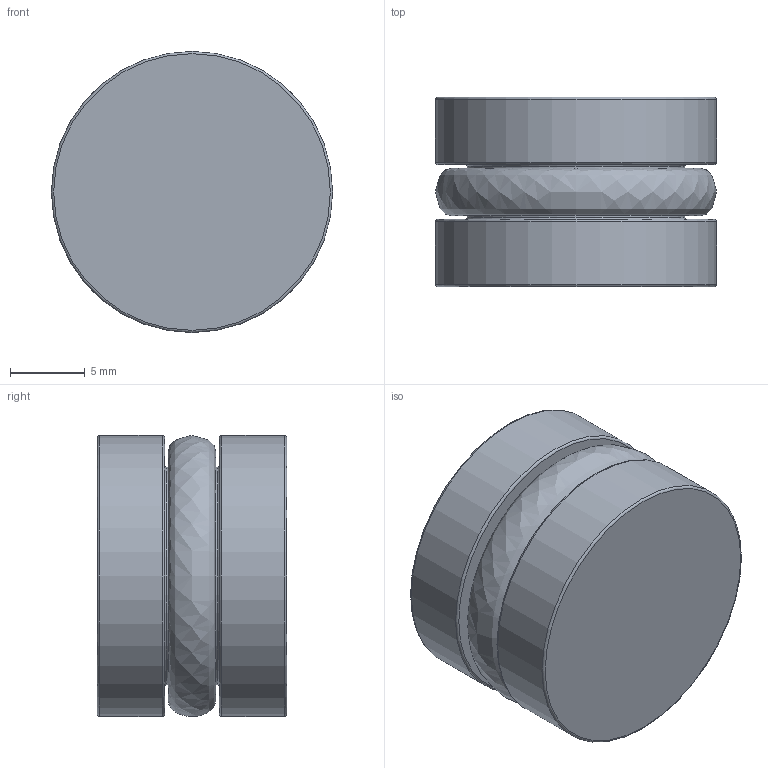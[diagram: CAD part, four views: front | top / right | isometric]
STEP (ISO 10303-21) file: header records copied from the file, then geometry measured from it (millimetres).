
FILE_DESCRIPTION(/* description */ (''),/* implementation_level */ '2;1');
FILE_NAME(/* name */ 'C:/Users/drich/Desktop/OR-750 v1.step',/* time_stamp */ '2019-12-29T16:46:26-06:00',/* author */ (''),/* organization */ (''),/* preprocessor_version */ 'ST-DEVELOPER v18',/* originating_system */ 'Autodesk Translation Framework v8.12.0.6',/* authorisation */ '');
FILE_SCHEMA (('AUTOMOTIVE_DESIGN { 1 0 10303 214 3 1 1 }'));
Length unit declared in the file: inch
Products named in the file (1): OR-750
Bounding box: 18.85 x 12.7 x 18.85 mm (x, y, z)
Volume: 3290.5 mm3; surface area: 1985.6 mm2
Topology: 2 solids, 2 shells, 17 faces, 45 edges, 32 vertices
Faces by surface type: torus 6, cylinder 4, plane 4, cone 2, bspline 1
Full cylindrical faces by diameter (mm): 5.118 x1, 14.58 x1, 18.847 x2
Entity records: 681 total; most frequent: CARTESIAN_POINT 174, DIRECTION 116, ORIENTED_EDGE 88, AXIS2_PLACEMENT_3D 55, EDGE_CURVE 44, CIRCLE 37, VERTEX_POINT 32, EDGE_LOOP 20
